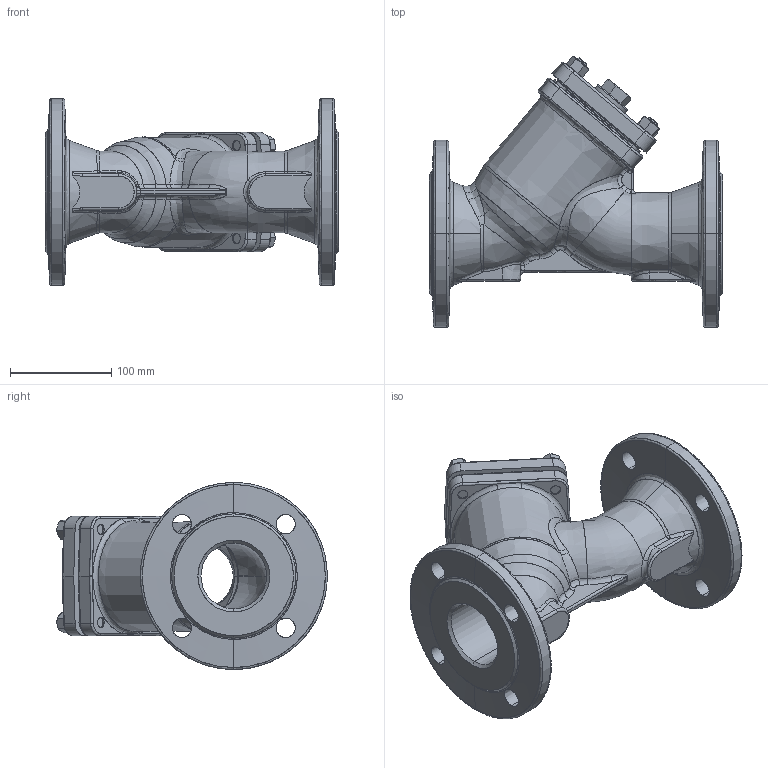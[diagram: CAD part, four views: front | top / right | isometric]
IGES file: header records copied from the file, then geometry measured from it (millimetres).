
Start section: SolidWorks IGES file using analytic representation for surfaces
Global section: file name: D:\katalog z³o¿eñ\00_Gotowe\821\RYSUNKI DXF\Z£O¯ENIA\Part\821_DN65_PN16.IGS; native system: SolidWorks 2010; preprocessor: SolidWorks 2010; author: alisowsk; date: 100108.125728; units: millimetre
Bounding box: 290 x 267.71 x 185 mm (x, y, z)
Surface area: 356191.5 mm2 (no closed solid volume)
Topology: 0 solids, 0 shells, 619 faces, 8822 edges, 8820 vertices
Faces by surface type: bspline 315, revolution 304
